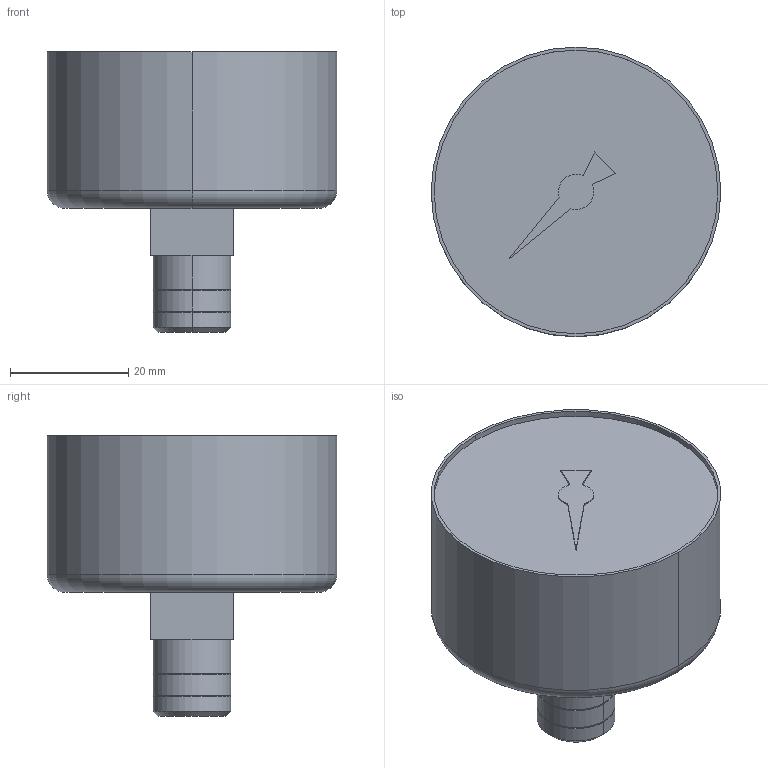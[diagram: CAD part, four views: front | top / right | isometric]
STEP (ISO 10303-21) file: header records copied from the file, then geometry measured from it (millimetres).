
FILE_DESCRIPTION((''),'2;1');
FILE_NAME('R412007898','2020-10-06T18:40:43',('GIO1HC'),(''),'CREO PARAMETRIC BY PTC INC, 2018190','CREO PARAMETRIC BY PTC INC, 2018190','');
FILE_SCHEMA(('AUTOMOTIVE_DESIGN { 1 0 10303 214 1 1 1 1 }'));
Length unit declared in the file: millimetre
Products named in the file (1): R412007898
Bounding box: 49 x 49 x 47.5 mm (x, y, z)
Volume: 51210.4 mm3; surface area: 8902.3 mm2
Topology: 1 solids, 1 shells, 42 faces, 89 edges, 54 vertices
Faces by surface type: plane 16, cylinder 14, cone 10, torus 2
Entity records: 1315 total; most frequent: DIRECTION 233, CARTESIAN_POINT 198, ORIENTED_EDGE 178, AXIS2_PLACEMENT_3D 91, EDGE_CURVE 89, VERTEX_POINT 54, VECTOR 51, LINE 51
